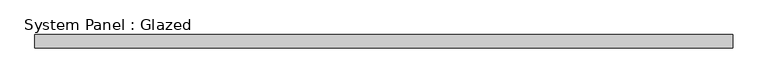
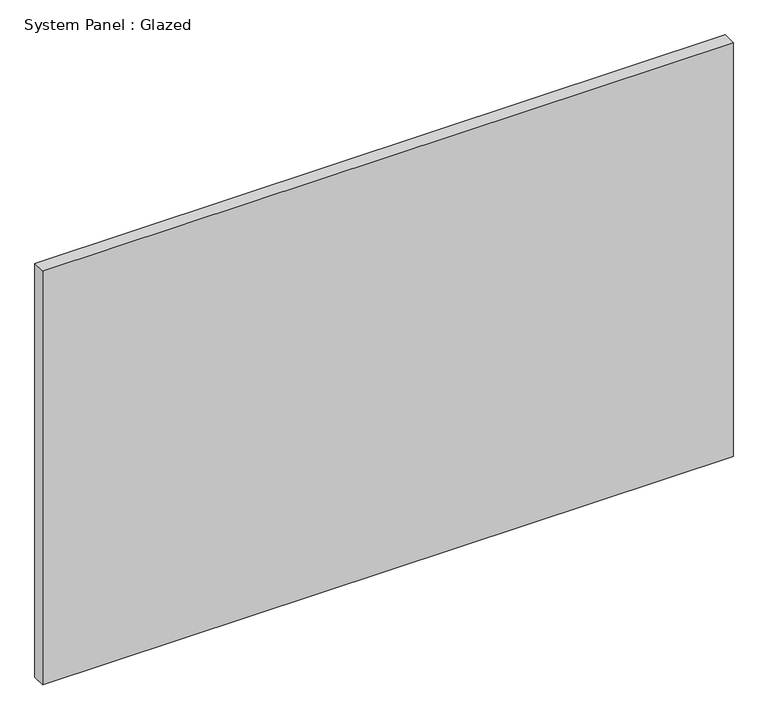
"""IFC4 building model written with IfcOpenShell, lengths in millimetres: plate geometry, System Panel : Glazed."""

from ifc_helpers import new_model, si_unit, origin, origin_with_axes, place, context, project, spatial, polyline, outline, extrude, source, transform, mapped, element, save


def system_panel_glazed_fee3e825(model_context):
    return source(origin(), model_context, "Body", "SweptSolid", [
        extrude(outline(polyline([(650.4893952, 24.5), (-650.4893952, 24.5), (-650.4893952, 49.5), (650.4893952, 49.5), (650.4893952, 24.5)])), origin_with_axes(), (0.0, 0.0, 1.0), 825.0),
    ])


if __name__ == "__main__":
    model = new_model("IFC4")
    model_context = context("Model", 3, world=origin())
    ifc_project = project(units=[si_unit("LENGTHUNIT", "METRE", prefix="MILLI")], contexts=[model_context])
    site = spatial("IfcSite", under=ifc_project)
    building = spatial("IfcBuilding", under=site)
    placement = place(None, origin())
    system_panel_glazed_shape = system_panel_glazed_fee3e825(model_context)
    element("IfcPlate", 1, ObjectType="System Panel : Glazed", at=placement, inside=building, context=model_context, shape_type="MappedRepresentation", body=[
        mapped(system_panel_glazed_shape, transform((0.0, 0.0, 0.0), x_axis=(1.0, 0.0, 0.0), y_axis=(0.0, 1.0, 0.0), z_axis=(0.0, 0.0, 1.0))),
    ])
    save(model, "model.ifc")
